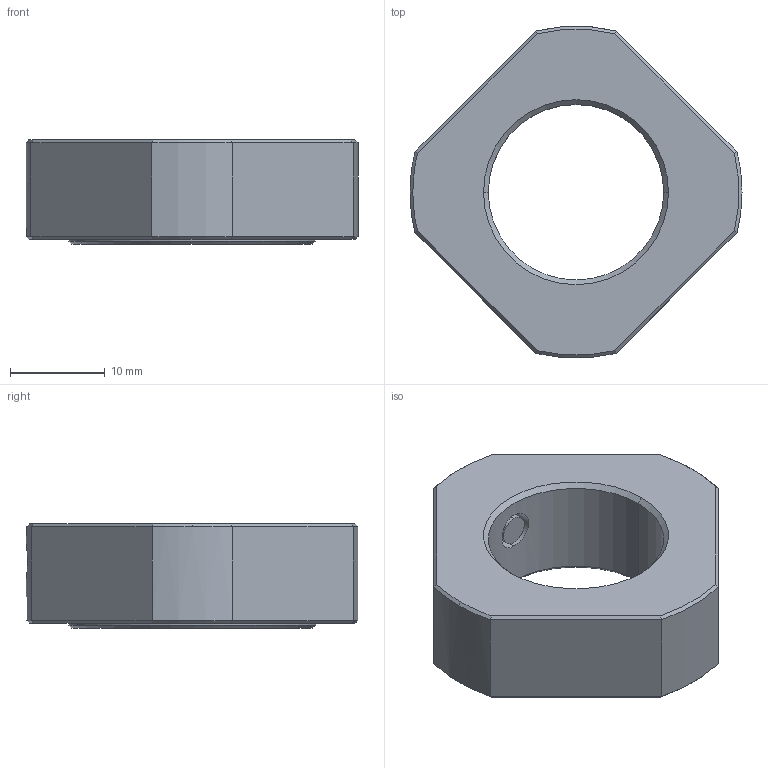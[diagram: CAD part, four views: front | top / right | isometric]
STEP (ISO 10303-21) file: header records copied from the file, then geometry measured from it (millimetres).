
FILE_DESCRIPTION (( 'STEP AP203' ), '1' );
FILE_NAME ('RN20.STEP', '2009-05-27T01:19:00', ( '冠犁泅' ), ( '俺惯何' ), 'SwSTEP 2.0', 'SolidWorks 2007', '' );
FILE_SCHEMA (( 'CONFIG_CONTROL_DESIGN' ));
Length unit declared in the file: millimetre
Products named in the file (4): RN20_NUT_晦獄 撲薑; Socket Set Screw Flat Point_AM_B18.3.6M - M4 x 0.7 x 6 Hex Socket Flat Pt. SS --N_B18.3.6M - M4 x 0.7 x 6 Hex Socket Flat Pt. SS --N; RN20; SET PIECE_白3.1x1_晦獄 撲薑
Assembly tree (3 placements, depth 2):
  RN20
    RN20_NUT_晦獄 撲薑
    Socket Set Screw Flat Point_AM_B18.3.6M - M4 x 0.7 x 6 Hex Socket Flat Pt. SS --N_B18.3.6M - M4 x 0.7 x 6 Hex Socket Flat Pt. SS --N
    SET PIECE_白3.1x1_晦獄 撲薑
Bounding box: 35 x 34.94 x 11 mm (x, y, z)
Volume: 6069.1 mm3; surface area: 3065.6 mm2
Topology: 3 solids, 3 shells, 61 faces, 132 edges, 79 vertices
Faces by surface type: plane 26, cone 20, cylinder 15
Entity records: 2175 total; most frequent: CARTESIAN_POINT 434, DIRECTION 293, ORIENTED_EDGE 264, EDGE_CURVE 132, AXIS2_PLACEMENT_3D 114, VERTEX_POINT 79, EDGE_LOOP 67, VECTOR 65
